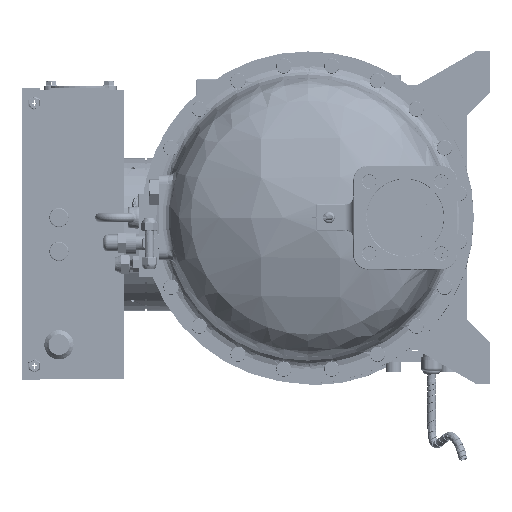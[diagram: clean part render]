
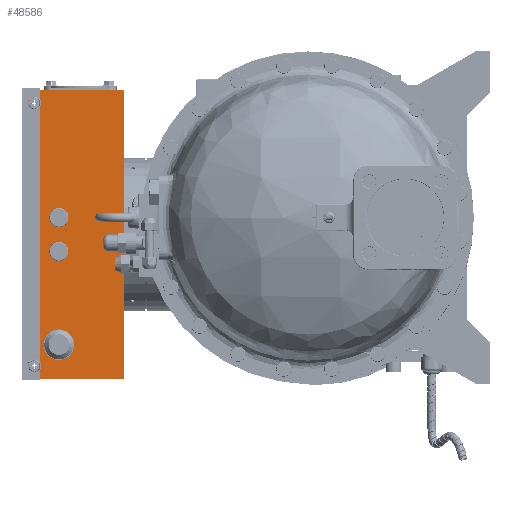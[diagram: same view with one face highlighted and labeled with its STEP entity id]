
A CAD part, left-side view. The second image highlights one B-rep face of the part: STEP entity #48586.
In plain terms, the highlighted planar face has unit normal (-1, 0, 0).
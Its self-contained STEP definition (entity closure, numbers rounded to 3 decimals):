
#3443 = CARTESIAN_POINT ( 'NONE',  ( 12.9, 33.25, 15.84 ) ) ;
#3638 = AXIS2_PLACEMENT_3D ( 'NONE', #25353, #107777, #37260 ) ;
#4235 = DIRECTION ( 'NONE',  ( 0., 0., -1. ) ) ;
#5253 = EDGE_LOOP ( 'NONE', ( #43371, #40786 ) ) ;
#8175 = EDGE_CURVE ( 'NONE', #142426, #28023, #31547, .T. ) ;
#8336 = CARTESIAN_POINT ( 'NONE',  ( 12.9, 33.25, -15.84 ) ) ;
#10687 = CARTESIAN_POINT ( 'NONE',  ( 12.9, 22.65, -16.8 ) ) ;
#11561 = DIRECTION ( 'NONE',  ( -1., 0., 0. ) ) ;
#13776 = CARTESIAN_POINT ( 'NONE',  ( 12.9, 22.65, -17. ) ) ;
#15233 = CARTESIAN_POINT ( 'NONE',  ( 12.9, 30.35, 2. ) ) ;
#16285 = CARTESIAN_POINT ( 'NONE',  ( 12.9, 33.25, -15.5 ) ) ;
#16778 = DIRECTION ( 'NONE',  ( -1., 0., 0. ) ) ;
#17055 = LINE ( 'NONE', #64623, #107416 ) ;
#17701 = VERTEX_POINT ( 'NONE', #8336 ) ;
#17900 = VERTEX_POINT ( 'NONE', #45658 ) ;
#24129 = CIRCLE ( 'NONE', #39938, 0.96 ) ;
#24563 = EDGE_CURVE ( 'NONE', #90071, #142426, #17055, .T. ) ;
#24964 = FACE_BOUND ( 'NONE', #5253, .T. ) ;
#25353 = CARTESIAN_POINT ( 'NONE',  ( 12.9, 30.35, -13. ) ) ;
#27096 = DIRECTION ( 'NONE',  ( 0., 0., 1. ) ) ;
#28023 = VERTEX_POINT ( 'NONE', #136419 ) ;
#28177 = DIRECTION ( 'NONE',  ( 0., 0., 1. ) ) ;
#28340 = CARTESIAN_POINT ( 'NONE',  ( 12.9, 30.35, -2.96 ) ) ;
#30478 = ORIENTED_EDGE ( 'NONE', *, *, #107641, .F. ) ;
#31547 = LINE ( 'NONE', #46214, #118132 ) ;
#32765 = AXIS2_PLACEMENT_3D ( 'NONE', #43524, #125857, #55302 ) ;
#33660 = VERTEX_POINT ( 'NONE', #106274 ) ;
#34191 = CIRCLE ( 'NONE', #119355, 0.34 ) ;
#35287 = AXIS2_PLACEMENT_3D ( 'NONE', #87378, #16778, #99162 ) ;
#36170 = DIRECTION ( 'NONE',  ( -1., 0., 0. ) ) ;
#36882 = AXIS2_PLACEMENT_3D ( 'NONE', #59852, #142229, #71768 ) ;
#37055 = CIRCLE ( 'NONE', #78286, 0.34 ) ;
#37260 = DIRECTION ( 'NONE',  ( 0., 0., 1. ) ) ;
#37698 = EDGE_CURVE ( 'NONE', #33660, #148083, #48628, .T. ) ;
#39938 = AXIS2_PLACEMENT_3D ( 'NONE', #15233, #97642, #27096 ) ;
#40786 = ORIENTED_EDGE ( 'NONE', *, *, #104481, .F. ) ;
#43371 = ORIENTED_EDGE ( 'NONE', *, *, #148989, .F. ) ;
#43524 = CARTESIAN_POINT ( 'NONE',  ( 12.9, 33.25, 15.5 ) ) ;
#44255 = CIRCLE ( 'NONE', #98382, 1.525 ) ;
#45077 = ORIENTED_EDGE ( 'NONE', *, *, #105819, .T. ) ;
#45658 = CARTESIAN_POINT ( 'NONE',  ( 12.9, 33.25, -15.16 ) ) ;
#46214 = CARTESIAN_POINT ( 'NONE',  ( 12.9, 34.35, 17. ) ) ;
#47040 = ORIENTED_EDGE ( 'NONE', *, *, #139420, .T. ) ;
#48586 = ADVANCED_FACE ( 'NONE', ( #24964, #115224, #87629, #146427, #83954, #52578 ), #121626, .F. ) ;
#48628 = CIRCLE ( 'NONE', #70755, 0.96 ) ;
#48940 = VERTEX_POINT ( 'NONE', #92183 ) ;
#50045 = CARTESIAN_POINT ( 'NONE',  ( 12.9, 33.25, 15.16 ) ) ;
#52578 = FACE_OUTER_BOUND ( 'NONE', #150551, .T. ) ;
#53934 = CIRCLE ( 'NONE', #32765, 0.34 ) ;
#55224 = DIRECTION ( 'NONE',  ( 0., -1., 0. ) ) ;
#55302 = DIRECTION ( 'NONE',  ( 0., 0., 1. ) ) ;
#56867 = DIRECTION ( 'NONE',  ( -1., 0., 0. ) ) ;
#57379 = CARTESIAN_POINT ( 'NONE',  ( 12.9, 34.35, 17. ) ) ;
#59852 = CARTESIAN_POINT ( 'NONE',  ( 12.9, 33.25, -15.5 ) ) ;
#60403 = ORIENTED_EDGE ( 'NONE', *, *, #104276, .F. ) ;
#62849 = VERTEX_POINT ( 'NONE', #3443 ) ;
#63981 = CARTESIAN_POINT ( 'NONE',  ( 12.9, 33.25, 15.5 ) ) ;
#64623 = CARTESIAN_POINT ( 'NONE',  ( 12.9, 34.35, -16.8 ) ) ;
#69666 = EDGE_LOOP ( 'NONE', ( #60403, #145489 ) ) ;
#70755 = AXIS2_PLACEMENT_3D ( 'NONE', #82127, #11561, #93950 ) ;
#71768 = DIRECTION ( 'NONE',  ( 0., 0., 1. ) ) ;
#74213 = EDGE_CURVE ( 'NONE', #148083, #33660, #24129, .T. ) ;
#74765 = DIRECTION ( 'NONE',  ( 1., 0., 0. ) ) ;
#75917 = DIRECTION ( 'NONE',  ( 0., 0., 1. ) ) ;
#76167 = CIRCLE ( 'NONE', #93859, 0.96 ) ;
#78105 = DIRECTION ( 'NONE',  ( 0., -1., 0. ) ) ;
#78286 = AXIS2_PLACEMENT_3D ( 'NONE', #63981, #146322, #75917 ) ;
#78382 = LINE ( 'NONE', #93483, #120785 ) ;
#79571 = CARTESIAN_POINT ( 'NONE',  ( 12.9, 30.35, -11.475 ) ) ;
#82127 = CARTESIAN_POINT ( 'NONE',  ( 12.9, 30.35, 2. ) ) ;
#83954 = FACE_BOUND ( 'NONE', #128436, .T. ) ;
#84266 = LINE ( 'NONE', #10687, #119236 ) ;
#87378 = CARTESIAN_POINT ( 'NONE',  ( 12.9, 30.35, -2. ) ) ;
#87629 = FACE_BOUND ( 'NONE', #69666, .T. ) ;
#87759 = ORIENTED_EDGE ( 'NONE', *, *, #110088, .F. ) ;
#89643 = ORIENTED_EDGE ( 'NONE', *, *, #74213, .F. ) ;
#90071 = VERTEX_POINT ( 'NONE', #137230 ) ;
#91398 = VERTEX_POINT ( 'NONE', #28340 ) ;
#92183 = CARTESIAN_POINT ( 'NONE',  ( 12.9, 30.35, -1.04 ) ) ;
#93082 = DIRECTION ( 'NONE',  ( 0., 0., 1. ) ) ;
#93483 = CARTESIAN_POINT ( 'NONE',  ( 12.9, 34.35, -17. ) ) ;
#93859 = AXIS2_PLACEMENT_3D ( 'NONE', #106721, #36170, #118518 ) ;
#93950 = DIRECTION ( 'NONE',  ( 0., 0., 1. ) ) ;
#95776 = CIRCLE ( 'NONE', #36882, 0.34 ) ;
#97635 = ORIENTED_EDGE ( 'NONE', *, *, #24563, .F. ) ;
#97642 = DIRECTION ( 'NONE',  ( -1., 0., 0. ) ) ;
#97942 = CARTESIAN_POINT ( 'NONE',  ( 12.9, 34.35, -16.8 ) ) ;
#97954 = ORIENTED_EDGE ( 'NONE', *, *, #132490, .F. ) ;
#98382 = AXIS2_PLACEMENT_3D ( 'NONE', #127403, #56867, #139208 ) ;
#98669 = DIRECTION ( 'NONE',  ( -1., 0., 0. ) ) ;
#98716 = ORIENTED_EDGE ( 'NONE', *, *, #37698, .F. ) ;
#99162 = DIRECTION ( 'NONE',  ( 0., 0., 1. ) ) ;
#100222 = CARTESIAN_POINT ( 'NONE',  ( 12.9, 30.35, 1.04 ) ) ;
#101214 = DIRECTION ( 'NONE',  ( 0., 0., 1. ) ) ;
#104276 = EDGE_CURVE ( 'NONE', #48940, #91398, #121655, .T. ) ;
#104481 = EDGE_CURVE ( 'NONE', #135091, #146435, #44255, .T. ) ;
#105819 = EDGE_CURVE ( 'NONE', #126263, #28023, #84266, .T. ) ;
#106274 = CARTESIAN_POINT ( 'NONE',  ( 12.9, 30.35, 2.96 ) ) ;
#106721 = CARTESIAN_POINT ( 'NONE',  ( 12.9, 30.35, -2. ) ) ;
#107416 = VECTOR ( 'NONE', #101214, 100. ) ;
#107641 = EDGE_CURVE ( 'NONE', #17900, #17701, #34191, .T. ) ;
#107777 = DIRECTION ( 'NONE',  ( -1., 0., 0. ) ) ;
#110088 = EDGE_CURVE ( 'NONE', #62849, #119444, #53934, .T. ) ;
#115224 = FACE_BOUND ( 'NONE', #141423, .T. ) ;
#118132 = VECTOR ( 'NONE', #55224, 100. ) ;
#118518 = DIRECTION ( 'NONE',  ( 0., 0., 1. ) ) ;
#118703 = ORIENTED_EDGE ( 'NONE', *, *, #8175, .F. ) ;
#119236 = VECTOR ( 'NONE', #93082, 100. ) ;
#119307 = EDGE_CURVE ( 'NONE', #91398, #48940, #76167, .T. ) ;
#119355 = AXIS2_PLACEMENT_3D ( 'NONE', #16285, #98669, #28177 ) ;
#119444 = VERTEX_POINT ( 'NONE', #50045 ) ;
#120785 = VECTOR ( 'NONE', #78105, 100. ) ;
#121626 = PLANE ( 'NONE',  #125982 ) ;
#121655 = CIRCLE ( 'NONE', #35287, 0.96 ) ;
#122041 = EDGE_CURVE ( 'NONE', #119444, #62849, #37055, .T. ) ;
#122450 = CARTESIAN_POINT ( 'NONE',  ( 12.9, 30.35, -14.525 ) ) ;
#125857 = DIRECTION ( 'NONE',  ( -1., 0., 0. ) ) ;
#125982 = AXIS2_PLACEMENT_3D ( 'NONE', #97942, #74765, #4235 ) ;
#126263 = VERTEX_POINT ( 'NONE', #13776 ) ;
#126945 = EDGE_LOOP ( 'NONE', ( #87759, #148537 ) ) ;
#127403 = CARTESIAN_POINT ( 'NONE',  ( 12.9, 30.35, -13. ) ) ;
#128436 = EDGE_LOOP ( 'NONE', ( #30478, #97954 ) ) ;
#132490 = EDGE_CURVE ( 'NONE', #17701, #17900, #95776, .T. ) ;
#135091 = VERTEX_POINT ( 'NONE', #122450 ) ;
#136419 = CARTESIAN_POINT ( 'NONE',  ( 12.9, 22.65, 17. ) ) ;
#137230 = CARTESIAN_POINT ( 'NONE',  ( 12.9, 34.35, -17. ) ) ;
#139208 = DIRECTION ( 'NONE',  ( 0., 0., 1. ) ) ;
#139420 = EDGE_CURVE ( 'NONE', #90071, #126263, #78382, .T. ) ;
#139861 = CIRCLE ( 'NONE', #3638, 1.525 ) ;
#141423 = EDGE_LOOP ( 'NONE', ( #98716, #89643 ) ) ;
#142229 = DIRECTION ( 'NONE',  ( -1., 0., 0. ) ) ;
#142426 = VERTEX_POINT ( 'NONE', #57379 ) ;
#145489 = ORIENTED_EDGE ( 'NONE', *, *, #119307, .F. ) ;
#146322 = DIRECTION ( 'NONE',  ( -1., 0., 0. ) ) ;
#146427 = FACE_BOUND ( 'NONE', #126945, .T. ) ;
#146435 = VERTEX_POINT ( 'NONE', #79571 ) ;
#148083 = VERTEX_POINT ( 'NONE', #100222 ) ;
#148537 = ORIENTED_EDGE ( 'NONE', *, *, #122041, .F. ) ;
#148989 = EDGE_CURVE ( 'NONE', #146435, #135091, #139861, .T. ) ;
#150551 = EDGE_LOOP ( 'NONE', ( #45077, #118703, #97635, #47040 ) ) ;
